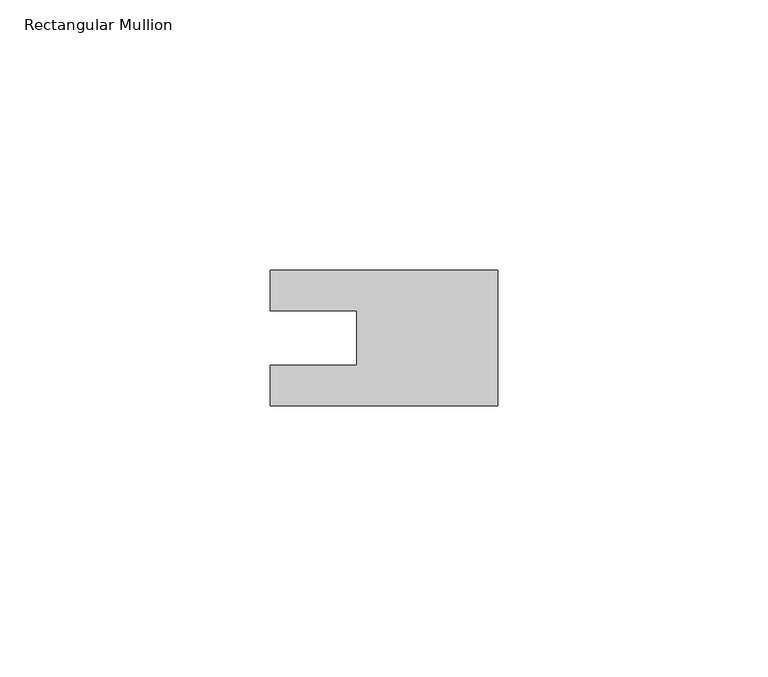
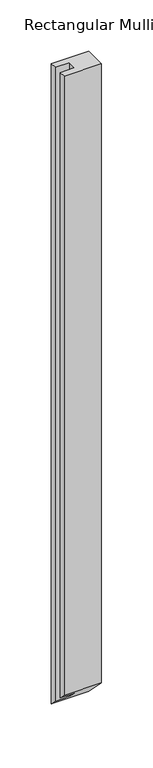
"""IFC4 building model written with IfcOpenShell, lengths in millimetres: member geometry, Rectangular Mullion : 22_IM_HGS_DET2_onder_40mm."""

from ifc_helpers import new_model, si_unit, origin, place, context, project, spatial, faceted_brep, source, transform, mapped, element, save


def rectangular_mullion_95f8c3c7(model_context):
    return source(origin(), model_context, "Body", "Brep", [
        faceted_brep([(0.0, 12.5, 0.0), (-42.0, 12.5, 0.0), (-42.0, 5.0, 0.0), (-26.0, 5.0, 0.0), (-26.0, -5.0, 0.0), (-42.0, -5.0, 0.0), (-42.0, -12.5, 0.0), (0.0, -12.5, 0.0), (0.0, 12.5, -762.4999997), (-42.0, 12.5, -762.4999997), (-42.0, 5.0, -754.9999997), (-26.0, 5.0, -754.9999997), (-26.0, -5.0, -744.9999997), (-42.0, -5.0, -744.9999997), (-42.0, -12.5, -737.4999997), (0.0, -12.5, -737.4999997)], [[[0, 1, 2, 3, 4, 5, 6, 7]], [[1, 0, 8, 9]], [[2, 1, 9, 10]], [[3, 2, 10, 11]], [[4, 3, 11, 12]], [[5, 4, 12, 13]], [[6, 5, 13, 14]], [[7, 6, 14, 15]], [[0, 7, 15, 8]], [[8, 15, 14, 13, 12, 11, 10, 9]]]),
    ])


if __name__ == "__main__":
    model = new_model("IFC4")
    model_context = context("Model", 3, world=origin())
    ifc_project = project(units=[si_unit("LENGTHUNIT", "METRE", prefix="MILLI")], contexts=[model_context])
    site = spatial("IfcSite", under=ifc_project)
    building = spatial("IfcBuilding", under=site)
    placement = place(None, origin())
    rectangular_mullion_shape = rectangular_mullion_95f8c3c7(model_context)
    element("IfcMember", 1, ObjectType="Rectangular Mullion : 22_IM_HGS_DET2_onder_40mm", at=placement, inside=building, context=model_context, shape_type="MappedRepresentation", body=[
        mapped(rectangular_mullion_shape, transform((0.0, 0.0, 0.0), x_axis=(1.0, 0.0, 0.0), y_axis=(0.0, 1.0, 0.0), z_axis=(0.0, 0.0, 1.0))),
    ])
    save(model, "model.ifc")
